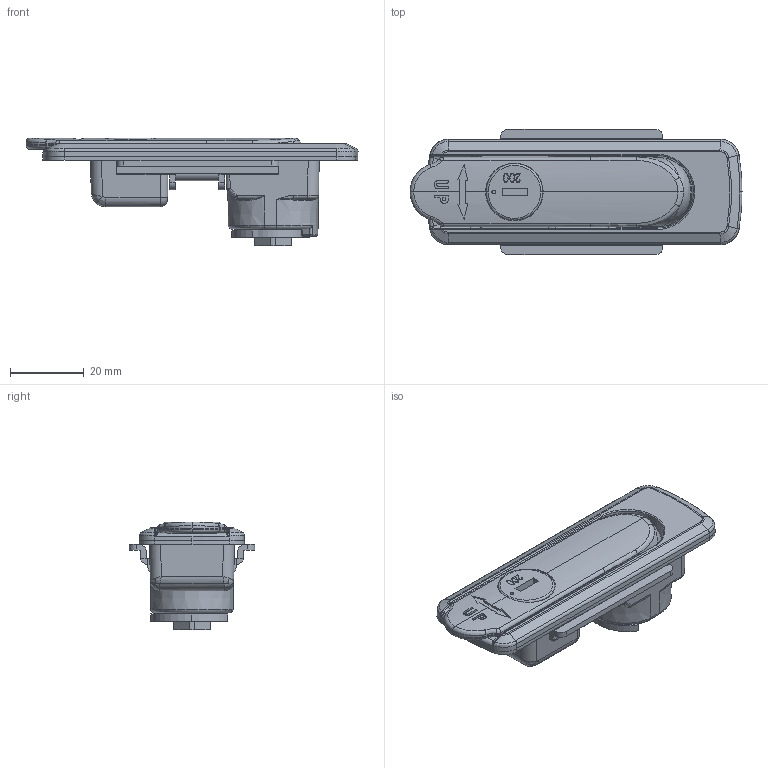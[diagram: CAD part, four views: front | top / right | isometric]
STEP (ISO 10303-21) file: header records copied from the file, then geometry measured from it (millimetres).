
FILE_DESCRIPTION (( 'STEP AP214' ), '1' );
FILE_NAME ('A90 KA-618-3K.STEP', '2016-11-24T07:51:32', ( '' ), ( '' ), 'SwSTEP 2.0', 'SolidWorks 2011', '' );
FILE_SCHEMA (( 'AUTOMOTIVE_DESIGN' ));
Length unit declared in the file: millimetre
Products named in the file (1): A90 KA-618-3K
Bounding box: 90 x 34 x 29.2 mm (x, y, z)
Volume: 24597.6 mm3; surface area: 23896.9 mm2
Topology: 4 solids, 4 shells, 721 faces, 1810 edges, 1096 vertices
Faces by surface type: plane 215, cylinder 213, bspline 203, torus 48, sphere 23, cone 19
Entity records: 48832 total; most frequent: CARTESIAN_POINT 25452, ORIENTED_EDGE 3572, DIRECTION 2763, EDGE_CURVE 1786, VERTEX_POINT 1093, AXIS2_PLACEMENT_3D 1026, EDGE_LOOP 755, FACE_OUTER_BOUND 721
